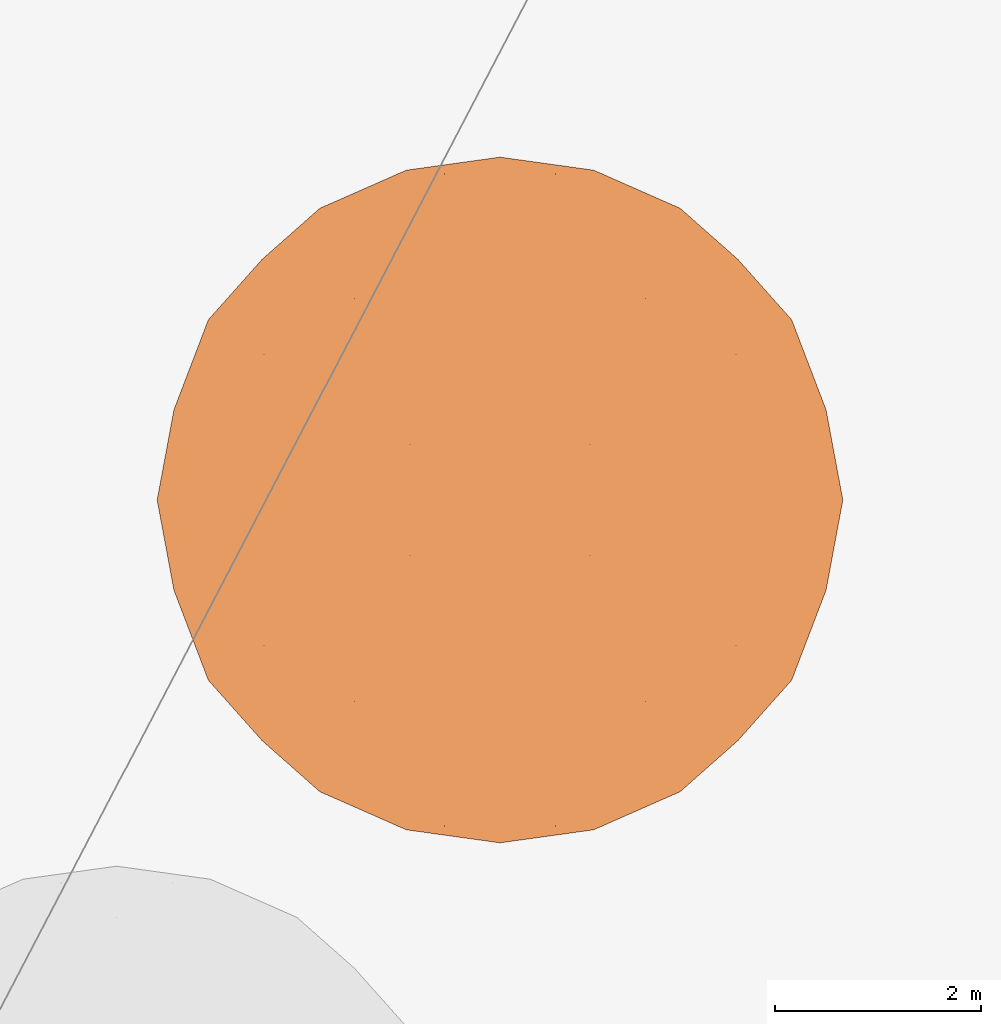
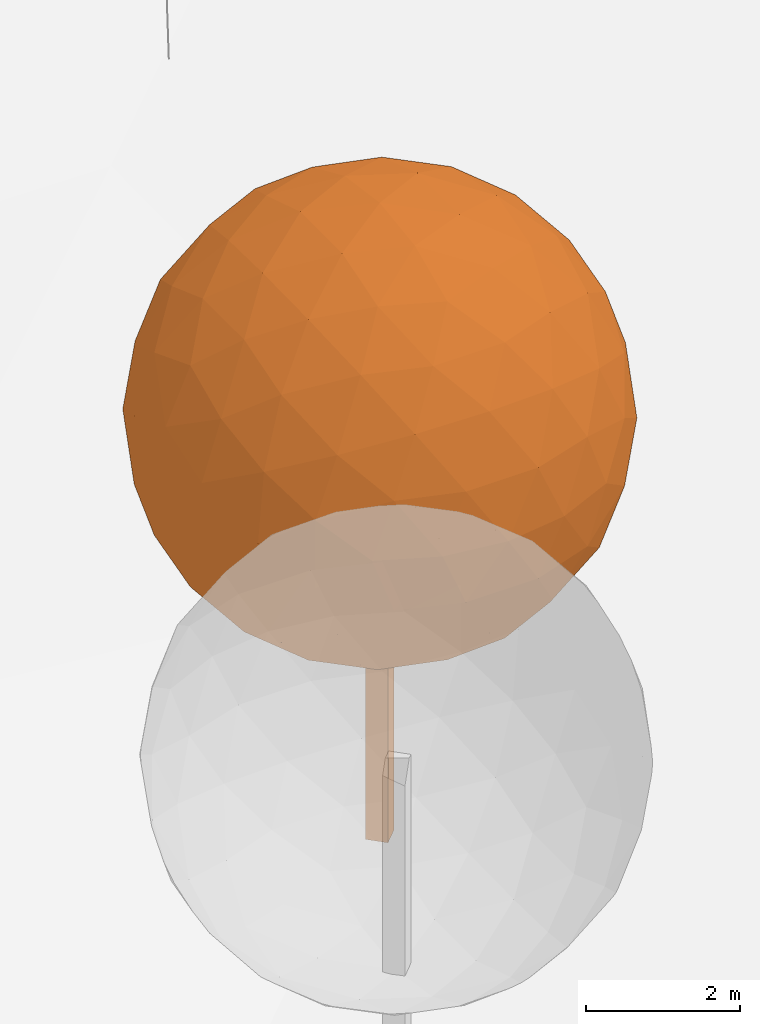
# Not in any storey, part 80 of 80: 1 geographic element.
"""IFC4 model written with IfcOpenShell, lengths in metres."""

from ifc_helpers import new_model, si_unit, frame, origin_with_axes, place, context, subcontext, project, spatial, polygons, element, save


model = new_model("IFC4")

# Units and contexts
model_context = context("Model", 3, precision=1e-05, world=origin_with_axes())
body_context = subcontext(model_context, "Body", "Model", "MODEL_VIEW")
ifc_project = project(units=[si_unit("AREAUNIT", "SQUARE_METRE"), si_unit("LENGTHUNIT", "METRE")], contexts=[model_context])

# Sites
site_1_placement = place(None, origin_with_axes())
site_1 = spatial("IfcSite", under=ifc_project, at=site_1_placement, Name="Topoexport Site")
site_2_placement = place(site_1_placement, origin_with_axes())
site_2 = spatial("IfcSite", under=site_1, at=site_2_placement, Name="TPX_ARBRES")

# Geographic element
geographic_element_placement = place(site_2_placement, frame((315.3541284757, 144.5636703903, 18.7483265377), z_axis=(0.0, 0.0, 1.0), x_axis=(1.0, 0.0, 0.0)))
element("IfcGeographicElement", 1, at=geographic_element_placement, inside=site_2, Name="Arbre TR2 CD66", ObjectType="VEGETATION", PredefinedType="USERDEFINED", context=body_context, shape_type="Tessellation", body=[
    polygons([(0.0, -0.2122065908, 0.0), (-0.2122065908, 0.0, 0.0), (0.0, 0.2122065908, 0.0), (0.2122065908, 0.0, 0.0), (0.0, -0.2122065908, 6.6666666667), (-0.2122065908, 0.0, 6.6666666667), (0.0, 0.2122065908, 6.6666666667), (0.2122065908, 0.0, 6.6666666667)], [[[3, 4, 1]], [[1, 2, 3]], [[5, 8, 7]], [[7, 6, 5]], [[5, 6, 1]], [[1, 6, 2]], [[6, 7, 2]], [[2, 7, 3]], [[8, 5, 4]], [[4, 5, 1]], [[7, 8, 3]], [[3, 8, 4]]]),
    polygons([(-1.7524370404, 2.8355026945, 6.6666666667), (1.7524370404, 2.8355026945, 6.6666666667), (-1.7524370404, -2.8355026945, 6.6666666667), (1.7524370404, -2.8355026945, 6.6666666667), (0.0, -1.7524370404, 9.5021693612), (0.0, 1.7524370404, 9.5021693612), (0.0, -1.7524370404, 3.8311639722), (0.0, 1.7524370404, 3.8311639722), (2.8355026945, 0.0, 4.9142296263), (2.8355026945, 0.0, 8.4191037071), (-2.8355026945, 0.0, 4.9142296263), (-2.8355026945, 0.0, 8.4191037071), (0.0, 3.3333333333, 6.6666666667), (0.0, -3.3333333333, 6.6666666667), (-1.0300566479, -2.6967233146, 8.3333333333), (1.0300566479, -2.6967233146, 8.3333333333), (-1.0300566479, 2.6967233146, 8.3333333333), (1.0300566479, 2.6967233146, 8.3333333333), (0.0, 0.0, 10.0), (-1.0300566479, -2.6967233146, 5.0), (1.0300566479, -2.6967233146, 5.0), (-1.0300566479, 2.6967233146, 5.0), (1.0300566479, 2.6967233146, 5.0), (0.0, 0.0, 3.3333333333), (2.6967233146, 1.6666666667, 5.6366100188), (2.6967233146, -1.6666666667, 5.6366100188), (1.6666666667, -1.0300566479, 3.9699433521), (1.6666666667, 1.0300566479, 3.9699433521), (2.6967233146, 1.6666666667, 7.6967233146), (2.6967233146, -1.6666666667, 7.6967233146), (1.6666666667, -1.0300566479, 9.3633899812), (1.6666666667, 1.0300566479, 9.3633899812), (3.3333333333, 0.0, 6.6666666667), (-2.6967233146, 1.6666666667, 5.6366100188), (-2.6967233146, -1.6666666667, 5.6366100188), (-1.6666666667, -1.0300566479, 3.9699433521), (-1.6666666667, 1.0300566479, 3.9699433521), (-2.6967233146, 1.6666666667, 7.6967233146), (-2.6967233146, -1.6666666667, 7.6967233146), (-1.6666666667, -1.0300566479, 9.3633899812), (-1.6666666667, 1.0300566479, 9.3633899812), (-3.3333333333, 0.0, 6.6666666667), (-0.9108884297, 3.2064611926, 6.6666666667), (0.9108884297, 3.2064611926, 6.6666666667), (-0.9108884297, -3.2064611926, 6.6666666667), (0.9108884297, -3.2064611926, 6.6666666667), (-1.4462952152, -2.8755616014, 7.5329730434), (-0.5354067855, -2.3126015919, 9.0068214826), (-0.5415328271, -3.1701883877, 7.5428851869), (1.4462952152, -2.8755616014, 7.5329730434), (0.5354067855, -2.3126015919, 9.0068214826), (0.5415328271, -3.1701883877, 7.5428851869), (0.0, -2.8355026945, 8.4191037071), (-1.4462952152, 2.8755616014, 7.5329730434), (-0.5354067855, 2.3126015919, 9.0068214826), (-0.5415328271, 3.1701883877, 7.5428851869), (1.4462952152, 2.8755616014, 7.5329730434), (0.5354067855, 2.3126015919, 9.0068214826), (0.5415328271, 3.1701883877, 7.5428851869), (0.0, 2.8355026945, 8.4191037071), (0.0, -0.9108884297, 9.8731278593), (0.0, 0.9108884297, 9.8731278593), (-1.4462952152, -2.8755616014, 5.80036029), (-0.5354067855, -2.3126015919, 4.3265118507), (-0.5415328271, -3.1701883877, 5.7904481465), (1.4462952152, -2.8755616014, 5.80036029), (0.5354067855, -2.3126015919, 4.3265118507), (0.5415328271, -3.1701883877, 5.7904481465), (0.0, -2.8355026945, 4.9142296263), (-1.4462952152, 2.8755616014, 5.80036029), (-0.5354067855, 2.3126015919, 4.3265118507), (-0.5415328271, 3.1701883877, 5.7904481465), (1.4462952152, 2.8755616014, 5.80036029), (0.5354067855, 2.3126015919, 4.3265118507), (0.5415328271, 3.1701883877, 5.7904481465), (0.0, 2.8355026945, 4.9142296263), (0.0, -0.9108884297, 3.4602054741), (0.0, 0.9108884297, 3.4602054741), (2.3126015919, 2.3401548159, 6.1312598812), (2.8755616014, 0.8663063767, 5.2203714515), (1.9592841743, 2.2939698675, 5.2489153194), (2.3126015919, -2.3401548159, 6.1312598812), (2.8755616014, -0.8663063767, 5.2203714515), (1.9592841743, -2.2939698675, 5.2489153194), (0.8663063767, -1.4462952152, 3.7911050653), (2.3401548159, -0.5354067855, 4.3540650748), (1.4177513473, -1.9592841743, 4.3726967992), (0.8762185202, -0.5415328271, 3.496478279), (2.2939698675, -1.4177513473, 4.7073824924), (0.8663063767, 1.4462952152, 3.7911050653), (2.3401548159, 0.5354067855, 4.3540650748), (1.4177513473, 1.9592841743, 4.3726967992), (0.8762185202, 0.5415328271, 3.496478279), (2.2939698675, 1.4177513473, 4.7073824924), (1.7524370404, 0.0, 3.8311639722), (2.3126015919, 2.3401548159, 7.2020734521), (2.8755616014, 0.8663063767, 8.1129618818), (1.9592841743, 2.2939698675, 8.0844180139), (2.8355026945, 1.7524370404, 6.6666666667), (2.3126015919, -2.3401548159, 7.2020734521), (2.8755616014, -0.8663063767, 8.1129618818), (1.9592841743, -2.2939698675, 8.0844180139), (2.8355026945, -1.7524370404, 6.6666666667), (0.8663063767, -1.4462952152, 9.5422282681), (2.3401548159, -0.5354067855, 8.9792682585), (1.4177513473, -1.9592841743, 8.9606365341), (0.8762185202, -0.5415328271, 9.8368550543), (2.2939698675, -1.4177513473, 8.625950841), (0.8663063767, 1.4462952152, 9.5422282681), (2.3401548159, 0.5354067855, 8.9792682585), (1.4177513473, 1.9592841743, 8.9606365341), (0.8762185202, 0.5415328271, 9.8368550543), (2.2939698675, 1.4177513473, 8.625950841), (1.7524370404, 0.0, 9.5021693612), (3.2064611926, 0.0, 5.755778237), (3.2064611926, 0.0, 7.5775550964), (3.1701883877, 0.8762185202, 6.1251338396), (3.1701883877, -0.8762185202, 6.1251338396), (3.1701883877, 0.8762185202, 7.2081994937), (3.1701883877, -0.8762185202, 7.2081994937), (-2.3126015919, 2.3401548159, 6.1312598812), (-2.8755616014, 0.8663063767, 5.2203714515), (-1.9592841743, 2.2939698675, 5.2489153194), (-2.3126015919, -2.3401548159, 6.1312598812), (-2.8755616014, -0.8663063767, 5.2203714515), (-1.9592841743, -2.2939698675, 5.2489153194), (-0.8663063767, -1.4462952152, 3.7911050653), (-2.3401548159, -0.5354067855, 4.3540650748), (-1.4177513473, -1.9592841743, 4.3726967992), (-0.8762185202, -0.5415328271, 3.496478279), (-2.2939698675, -1.4177513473, 4.7073824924), (-0.8663063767, 1.4462952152, 3.7911050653), (-2.3401548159, 0.5354067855, 4.3540650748), (-1.4177513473, 1.9592841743, 4.3726967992), (-0.8762185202, 0.5415328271, 3.496478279), (-2.2939698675, 1.4177513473, 4.7073824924), (-1.7524370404, 0.0, 3.8311639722), (-2.3126015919, 2.3401548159, 7.2020734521), (-2.8755616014, 0.8663063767, 8.1129618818), (-1.9592841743, 2.2939698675, 8.0844180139), (-2.8355026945, 1.7524370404, 6.6666666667), (-2.3126015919, -2.3401548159, 7.2020734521), (-2.8755616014, -0.8663063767, 8.1129618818), (-1.9592841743, -2.2939698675, 8.0844180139), (-2.8355026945, -1.7524370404, 6.6666666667), (-0.8663063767, -1.4462952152, 9.5422282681), (-2.3401548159, -0.5354067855, 8.9792682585), (-1.4177513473, -1.9592841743, 8.9606365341), (-0.8762185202, -0.5415328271, 9.8368550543), (-2.2939698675, -1.4177513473, 8.625950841), (-0.8663063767, 1.4462952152, 9.5422282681), (-2.3401548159, 0.5354067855, 8.9792682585), (-1.4177513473, 1.9592841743, 8.9606365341), (-0.8762185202, 0.5415328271, 9.8368550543), (-2.2939698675, 1.4177513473, 8.625950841), (-1.7524370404, 0.0, 9.5021693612), (-3.2064611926, 0.0, 5.755778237), (-3.2064611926, 0.0, 7.5775550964), (-3.1701883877, 0.8762185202, 6.1251338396), (-3.1701883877, -0.8762185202, 6.1251338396), (-3.1701883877, 0.8762185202, 7.2081994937), (-3.1701883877, -0.8762185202, 7.2081994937)], [[[1, 138, 54]], [[138, 38, 140]], [[54, 140, 17]], [[138, 140, 54]], [[38, 139, 155]], [[139, 12, 152]], [[155, 152, 41]], [[139, 152, 155]], [[17, 153, 55]], [[153, 41, 151]], [[55, 151, 6]], [[153, 151, 55]], [[38, 155, 140]], [[155, 41, 153]], [[140, 153, 17]], [[155, 153, 140]], [[1, 54, 43]], [[54, 17, 56]], [[43, 56, 13]], [[54, 56, 43]], [[17, 55, 60]], [[55, 6, 58]], [[60, 58, 18]], [[55, 58, 60]], [[13, 59, 44]], [[59, 18, 57]], [[44, 57, 2]], [[59, 57, 44]], [[17, 60, 56]], [[60, 18, 59]], [[56, 59, 13]], [[60, 59, 56]], [[1, 43, 70]], [[43, 13, 72]], [[70, 72, 22]], [[43, 72, 70]], [[13, 44, 75]], [[44, 2, 73]], [[75, 73, 23]], [[44, 73, 75]], [[22, 76, 71]], [[76, 23, 74]], [[71, 74, 8]], [[76, 74, 71]], [[13, 75, 72]], [[75, 23, 76]], [[72, 76, 22]], [[75, 76, 72]], [[1, 70, 121]], [[70, 22, 123]], [[121, 123, 34]], [[70, 123, 121]], [[22, 71, 134]], [[71, 8, 132]], [[134, 132, 37]], [[71, 132, 134]], [[34, 136, 122]], [[136, 37, 133]], [[122, 133, 11]], [[136, 133, 122]], [[22, 134, 123]], [[134, 37, 136]], [[123, 136, 34]], [[134, 136, 123]], [[1, 121, 138]], [[121, 34, 141]], [[138, 141, 38]], [[121, 141, 138]], [[34, 122, 159]], [[122, 11, 157]], [[159, 157, 42]], [[122, 157, 159]], [[38, 161, 139]], [[161, 42, 158]], [[139, 158, 12]], [[161, 158, 139]], [[34, 159, 141]], [[159, 42, 161]], [[141, 161, 38]], [[159, 161, 141]], [[2, 57, 96]], [[57, 18, 98]], [[96, 98, 29]], [[57, 98, 96]], [[18, 58, 111]], [[58, 6, 109]], [[111, 109, 32]], [[58, 109, 111]], [[29, 113, 97]], [[113, 32, 110]], [[97, 110, 10]], [[113, 110, 97]], [[18, 111, 98]], [[111, 32, 113]], [[98, 113, 29]], [[111, 113, 98]], [[6, 151, 62]], [[151, 41, 154]], [[62, 154, 19]], [[151, 154, 62]], [[41, 152, 156]], [[152, 12, 147]], [[156, 147, 40]], [[152, 147, 156]], [[19, 149, 61]], [[149, 40, 146]], [[61, 146, 5]], [[149, 146, 61]], [[41, 156, 154]], [[156, 40, 149]], [[154, 149, 19]], [[156, 149, 154]], [[12, 158, 143]], [[158, 42, 162]], [[143, 162, 39]], [[158, 162, 143]], [[42, 157, 160]], [[157, 11, 125]], [[160, 125, 35]], [[157, 125, 160]], [[39, 145, 142]], [[145, 35, 124]], [[142, 124, 3]], [[145, 124, 142]], [[42, 160, 162]], [[160, 35, 145]], [[162, 145, 39]], [[160, 145, 162]], [[11, 133, 128]], [[133, 37, 137]], [[128, 137, 36]], [[133, 137, 128]], [[37, 132, 135]], [[132, 8, 78]], [[135, 78, 24]], [[132, 78, 135]], [[36, 130, 127]], [[130, 24, 77]], [[127, 77, 7]], [[130, 77, 127]], [[37, 135, 137]], [[135, 24, 130]], [[137, 130, 36]], [[135, 130, 137]], [[8, 74, 90]], [[74, 23, 92]], [[90, 92, 28]], [[74, 92, 90]], [[23, 73, 81]], [[73, 2, 79]], [[81, 79, 25]], [[73, 79, 81]], [[28, 94, 91]], [[94, 25, 80]], [[91, 80, 9]], [[94, 80, 91]], [[23, 81, 92]], [[81, 25, 94]], [[92, 94, 28]], [[81, 94, 92]], [[4, 100, 50]], [[100, 30, 102]], [[50, 102, 16]], [[100, 102, 50]], [[30, 101, 108]], [[101, 10, 105]], [[108, 105, 31]], [[101, 105, 108]], [[16, 106, 51]], [[106, 31, 104]], [[51, 104, 5]], [[106, 104, 51]], [[30, 108, 102]], [[108, 31, 106]], [[102, 106, 16]], [[108, 106, 102]], [[4, 50, 46]], [[50, 16, 52]], [[46, 52, 14]], [[50, 52, 46]], [[16, 51, 53]], [[51, 5, 48]], [[53, 48, 15]], [[51, 48, 53]], [[14, 49, 45]], [[49, 15, 47]], [[45, 47, 3]], [[49, 47, 45]], [[16, 53, 52]], [[53, 15, 49]], [[52, 49, 14]], [[53, 49, 52]], [[4, 46, 66]], [[46, 14, 68]], [[66, 68, 21]], [[46, 68, 66]], [[14, 45, 65]], [[45, 3, 63]], [[65, 63, 20]], [[45, 63, 65]], [[21, 69, 67]], [[69, 20, 64]], [[67, 64, 7]], [[69, 64, 67]], [[14, 65, 68]], [[65, 20, 69]], [[68, 69, 21]], [[65, 69, 68]], [[4, 66, 82]], [[66, 21, 84]], [[82, 84, 26]], [[66, 84, 82]], [[21, 67, 87]], [[67, 7, 85]], [[87, 85, 27]], [[67, 85, 87]], [[26, 89, 83]], [[89, 27, 86]], [[83, 86, 9]], [[89, 86, 83]], [[21, 87, 84]], [[87, 27, 89]], [[84, 89, 26]], [[87, 89, 84]], [[4, 82, 100]], [[82, 26, 103]], [[100, 103, 30]], [[82, 103, 100]], [[26, 83, 118]], [[83, 9, 115]], [[118, 115, 33]], [[83, 115, 118]], [[30, 120, 101]], [[120, 33, 116]], [[101, 116, 10]], [[120, 116, 101]], [[26, 118, 103]], [[118, 33, 120]], [[103, 120, 30]], [[118, 120, 103]], [[5, 104, 61]], [[104, 31, 107]], [[61, 107, 19]], [[104, 107, 61]], [[31, 105, 114]], [[105, 10, 110]], [[114, 110, 32]], [[105, 110, 114]], [[19, 112, 62]], [[112, 32, 109]], [[62, 109, 6]], [[112, 109, 62]], [[31, 114, 107]], [[114, 32, 112]], [[107, 112, 19]], [[114, 112, 107]], [[3, 47, 142]], [[47, 15, 144]], [[142, 144, 39]], [[47, 144, 142]], [[15, 48, 148]], [[48, 5, 146]], [[148, 146, 40]], [[48, 146, 148]], [[39, 150, 143]], [[150, 40, 147]], [[143, 147, 12]], [[150, 147, 143]], [[15, 148, 144]], [[148, 40, 150]], [[144, 150, 39]], [[148, 150, 144]], [[7, 64, 127]], [[64, 20, 129]], [[127, 129, 36]], [[64, 129, 127]], [[20, 63, 126]], [[63, 3, 124]], [[126, 124, 35]], [[63, 124, 126]], [[36, 131, 128]], [[131, 35, 125]], [[128, 125, 11]], [[131, 125, 128]], [[20, 126, 129]], [[126, 35, 131]], [[129, 131, 36]], [[126, 131, 129]], [[9, 86, 91]], [[86, 27, 95]], [[91, 95, 28]], [[86, 95, 91]], [[27, 85, 88]], [[85, 7, 77]], [[88, 77, 24]], [[85, 77, 88]], [[28, 93, 90]], [[93, 24, 78]], [[90, 78, 8]], [[93, 78, 90]], [[27, 88, 95]], [[88, 24, 93]], [[95, 93, 28]], [[88, 93, 95]], [[10, 116, 97]], [[116, 33, 119]], [[97, 119, 29]], [[116, 119, 97]], [[33, 115, 117]], [[115, 9, 80]], [[117, 80, 25]], [[115, 80, 117]], [[29, 99, 96]], [[99, 25, 79]], [[96, 79, 2]], [[99, 79, 96]], [[33, 117, 119]], [[117, 25, 99]], [[119, 99, 29]], [[117, 99, 119]]]),
])

save(model, "model.ifc")
